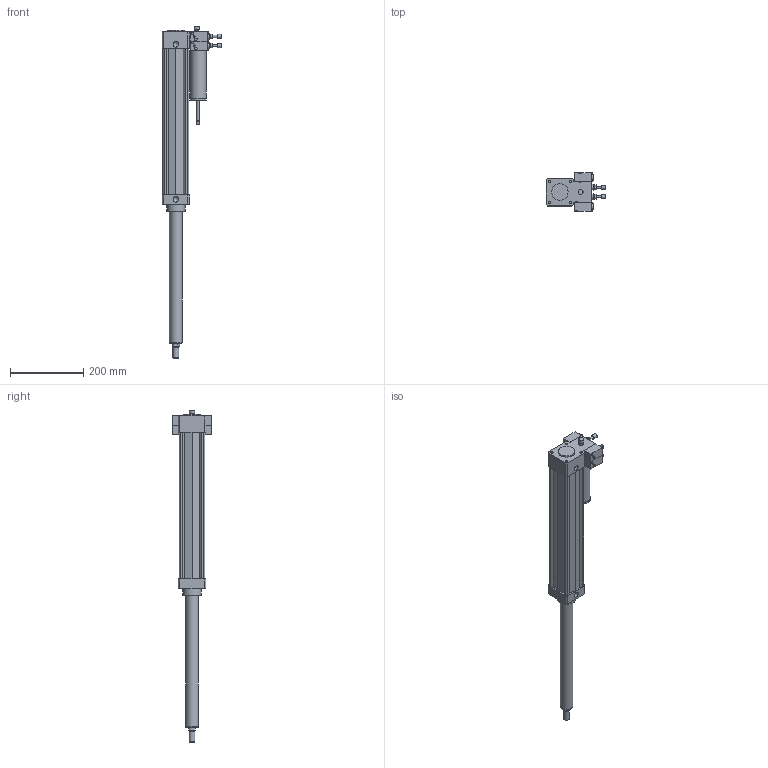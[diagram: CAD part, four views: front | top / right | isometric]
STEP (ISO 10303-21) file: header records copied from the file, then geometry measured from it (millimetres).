
FILE_DESCRIPTION((''),'2;1');
FILE_NAME('I:\Area Tecnica\Disegni\VARIE-3D\Componenti\COP\14##.####.#.#.#\14630350D.C.C.stp','2008-04-24T08:25:45',('airolcr1'),(''),'Autodesk Inventor 2008','Autodesk Inventor 2008','');
FILE_SCHEMA(('AUTOMOTIVE_DESIGN { 1 0 10303 214 1 1 1 1 }'));
Length unit declared in the file: millimetre
Products named in the file (9): 14630350D.C.C; STELO Ø63 C 350; VAL SK NC IN; VAL SK NC OUT; VAL ST NC IN; VAL ST NC OUT; REGOLATORE DR IN; REGOLATORE DR OUT
Assembly tree (8 placements, depth 2):
  14630350D.C.C
    14630350D.C.C
    STELO Ø63 C 350
    VAL SK NC IN
    VAL SK NC OUT
    VAL ST NC IN
    VAL ST NC OUT
    REGOLATORE DR IN
    REGOLATORE DR OUT
Bounding box: 163 x 105.61 x 906 mm (x, y, z)
Volume: 3024448.1 mm3; surface area: 270462.2 mm2
Topology: 8 solids, 8 shells, 308 faces, 646 edges, 417 vertices
Faces by surface type: plane 171, cylinder 91, bspline 34, cone 11, torus 1
Full cylindrical faces by diameter (mm): 2 x2, 4 x16, 6 x2, 7 x16, 8 x2, 11 x2, 12 x2, 13 x1, 14 x1, 14.5 x1, 16 x1, 17 x4, 20 x1, 34.7 x1, 35 x2, 41 x1, 45 x3, 50 x1
Entity records: 8314 total; most frequent: CARTESIAN_POINT 1653, DIRECTION 1362, ORIENTED_EDGE 1084, EDGE_CURVE 542, AXIS2_PLACEMENT_3D 529, EDGE_LOOP 462, VERTEX_POINT 404, FACE_OUTER_BOUND 308
